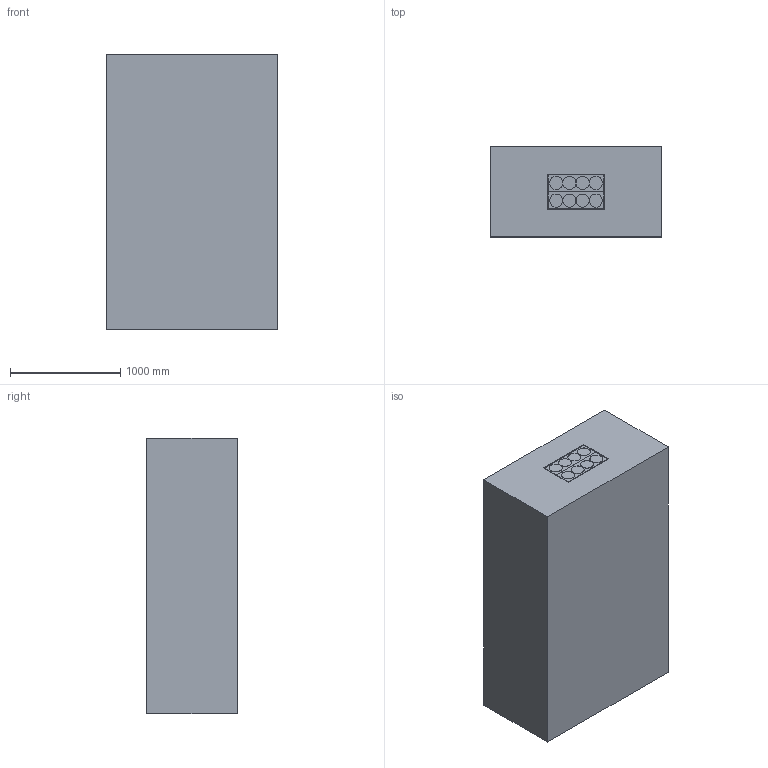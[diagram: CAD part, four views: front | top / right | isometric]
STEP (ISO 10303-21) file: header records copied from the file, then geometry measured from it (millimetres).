
FILE_DESCRIPTION(/* description */ (''),/* implementation_level */ '2;1');
FILE_NAME(/* name */ '12-10-10-10.step',/* time_stamp */ '2024-09-30T15:10:47-07:00',/* author */ (''),/* organization */ (''),/* preprocessor_version */ 'ST-DEVELOPER v20',/* originating_system */ 'Autodesk Translation Framework v13.20.0.188',/* authorisation */ '');
FILE_SCHEMA (('AUTOMOTIVE_DESIGN { 1 0 10303 214 3 1 1 }'));
Length unit declared in the file: millimetre
Products named in the file (2): 12-10-10-10 v2 (1); 12-10-10-10 v2
Assembly tree (1 placements, depth 2):
  12-10-10-10 v2 (1)
    12-10-10-10 v2
Bounding box: 1550 x 820 x 2500 mm (x, y, z)
Volume: 3175580212.3 mm3; surface area: 15531409 mm2
Topology: 1 solids, 1 shells, 948 faces, 2937 edges, 1957 vertices
Faces by surface type: plane 936, cylinder 12
Full cylindrical faces by diameter (mm): 118 x8
Entity records: 32906 total; most frequent: ORIENTED_EDGE 5874, CARTESIAN_POINT 5845, DIRECTION 4867, EDGE_CURVE 2937, LINE 2909, VECTOR 2909, VERTEX_POINT 1957, EDGE_LOOP 1328
